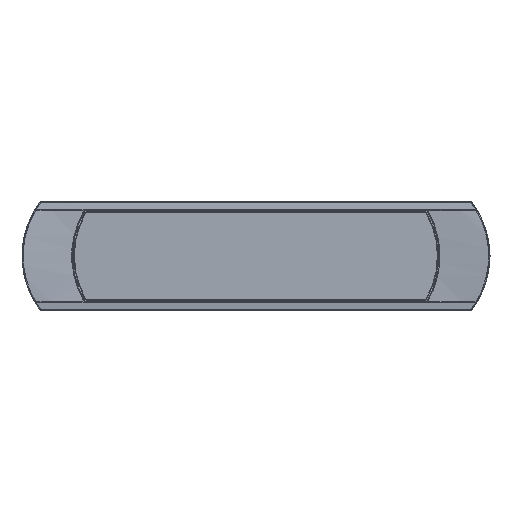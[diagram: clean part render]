
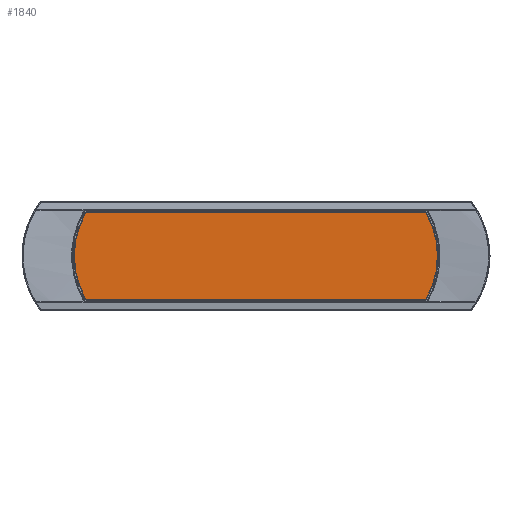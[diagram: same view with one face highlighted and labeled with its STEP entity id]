
A CAD part, top view. The second image highlights one B-rep face of the part: STEP entity #1840.
In plain terms, the highlighted planar face has unit normal (0, 0, 1) as drawn and (0, 1, 0) by its records, which use the part's own axes.
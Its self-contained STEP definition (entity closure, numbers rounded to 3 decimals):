
#97 = DIRECTION ( 'NONE',  ( 1., 0., 0. ) ) ;
#264 = EDGE_CURVE ( 'NONE', #66988, #19617, #21677, .T. ) ;
#1133 = CARTESIAN_POINT ( 'NONE',  ( -66.18, 21.1, -17. ) ) ;
#1840 = ADVANCED_FACE ( 'NONE', ( #38697 ), #14193, .T. ) ;
#2739 = AXIS2_PLACEMENT_3D ( 'NONE', #55006, #15106, #61252 ) ;
#3786 = ORIENTED_EDGE ( 'NONE', *, *, #68823, .T. ) ;
#4520 = CARTESIAN_POINT ( 'NONE',  ( 66.353, 21.1, -16.899 ) ) ;
#5473 = CARTESIAN_POINT ( 'NONE',  ( 66.253, 21.1, 17. ) ) ;
#7059 = CARTESIAN_POINT ( 'NONE',  ( 66.18, 21.1, 17. ) ) ;
#7843 = VERTEX_POINT ( 'NONE', #7059 ) ;
#8142 = DIRECTION ( 'NONE',  ( 0., 1., 0. ) ) ;
#10627 = CARTESIAN_POINT ( 'NONE',  ( 66.253, 21.1, -17. ) ) ;
#10857 = DIRECTION ( 'NONE',  ( 0., 1., 0. ) ) ;
#14193 = PLANE ( 'NONE',  #68060 ) ;
#14652 = AXIS2_PLACEMENT_3D ( 'NONE', #57537, #10857, #51265 ) ;
#15106 = DIRECTION ( 'NONE',  ( 0., 1., 0. ) ) ;
#15636 = EDGE_CURVE ( 'NONE', #19617, #30595, #30942, .T. ) ;
#15665 = CARTESIAN_POINT ( 'NONE',  ( -66.253, 21.1, 17. ) ) ;
#16105 = VERTEX_POINT ( 'NONE', #20111 ) ;
#19434 = DIRECTION ( 'NONE',  ( 0., 0., 1. ) ) ;
#19617 = VERTEX_POINT ( 'NONE', #24072 ) ;
#20111 = CARTESIAN_POINT ( 'NONE',  ( 66.18, 21.1, -17. ) ) ;
#21232 = CARTESIAN_POINT ( 'NONE',  ( -66.18, 21.1, 17. ) ) ;
#21584 = ORIENTED_EDGE ( 'NONE', *, *, #71460, .T. ) ;
#21677 = CIRCLE ( 'NONE', #14652, 34. ) ;
#21943 = EDGE_CURVE ( 'NONE', #48780, #16105, #37046, .T. ) ;
#23609 = EDGE_LOOP ( 'NONE', ( #29586, #71428, #73860, #45229, #47645, #40211, #3786, #21584 ) ) ;
#24072 = CARTESIAN_POINT ( 'NONE',  ( -66.352, 21.1, 16.9 ) ) ;
#24640 = DIRECTION ( 'NONE',  ( -1., 0., 0. ) ) ;
#25160 = CARTESIAN_POINT ( 'NONE',  ( -66.18, 21.1, -17. ) ) ;
#28575 = CARTESIAN_POINT ( 'NONE',  ( 66.316, 21.1, 16.963 ) ) ;
#29419 = CARTESIAN_POINT ( 'NONE',  ( 0., 21.1, 17. ) ) ;
#29586 = ORIENTED_EDGE ( 'NONE', *, *, #33412, .T. ) ;
#30595 = VERTEX_POINT ( 'NONE', #21232 ) ;
#30942 =( BOUNDED_CURVE ( )  B_SPLINE_CURVE ( 3, ( #55816, #32989, #15665, #67857 ),
 .UNSPECIFIED., .F., .F. ) 
 B_SPLINE_CURVE_WITH_KNOTS ( ( 4, 4 ),
 ( 2.62, 3.663 ),
 .UNSPECIFIED. ) 
 CURVE ( )  GEOMETRIC_REPRESENTATION_ITEM ( )  RATIONAL_B_SPLINE_CURVE ( ( 1., 0.911, 0.911, 1. ) ) 
 REPRESENTATION_ITEM ( '' )  );
#31195 = CARTESIAN_POINT ( 'NONE',  ( -66.316, 21.1, -16.963 ) ) ;
#31454 = VECTOR ( 'NONE', #24640, 1000. ) ;
#32989 = CARTESIAN_POINT ( 'NONE',  ( -66.316, 21.1, 16.963 ) ) ;
#33412 = EDGE_CURVE ( 'NONE', #41602, #48780, #67511, .T. ) ;
#34591 = CARTESIAN_POINT ( 'NONE',  ( 66.352, 21.1, 16.9 ) ) ;
#37046 =( BOUNDED_CURVE ( )  B_SPLINE_CURVE ( 3, ( #73648, #72675, #10627, #66883 ),
 .UNSPECIFIED., .F., .F. ) 
 B_SPLINE_CURVE_WITH_KNOTS ( ( 4, 4 ),
 ( 2.616, 3.663 ),
 .UNSPECIFIED. ) 
 CURVE ( )  GEOMETRIC_REPRESENTATION_ITEM ( )  RATIONAL_B_SPLINE_CURVE ( ( 1., 0.911, 0.911, 1. ) ) 
 REPRESENTATION_ITEM ( '' )  );
#38697 = FACE_OUTER_BOUND ( 'NONE', #23609, .T. ) ;
#39170 = LINE ( 'NONE', #29419, #57109 ) ;
#39610 = CARTESIAN_POINT ( 'NONE',  ( 66.18, 21.1, 17. ) ) ;
#40211 = ORIENTED_EDGE ( 'NONE', *, *, #15636, .T. ) ;
#41602 = VERTEX_POINT ( 'NONE', #57659 ) ;
#42254 = CARTESIAN_POINT ( 'NONE',  ( 0., 21.1, 0. ) ) ;
#45229 = ORIENTED_EDGE ( 'NONE', *, *, #50481, .T. ) ;
#46728 = LINE ( 'NONE', #65068, #31454 ) ;
#47645 = ORIENTED_EDGE ( 'NONE', *, *, #264, .T. ) ;
#48780 = VERTEX_POINT ( 'NONE', #4520 ) ;
#49834 = EDGE_CURVE ( 'NONE', #16105, #62390, #46728, .T. ) ;
#50481 = EDGE_CURVE ( 'NONE', #62390, #66988, #55819, .T. ) ;
#51265 = DIRECTION ( 'NONE',  ( 0., 0., 1. ) ) ;
#53789 = CARTESIAN_POINT ( 'NONE',  ( -66.253, 21.1, -17. ) ) ;
#55006 = CARTESIAN_POINT ( 'NONE',  ( 36.85, 21.1, 0. ) ) ;
#55816 = CARTESIAN_POINT ( 'NONE',  ( -66.352, 21.1, 16.9 ) ) ;
#55819 =( BOUNDED_CURVE ( )  B_SPLINE_CURVE ( 3, ( #25160, #53789, #31195, #71103 ),
 .UNSPECIFIED., .F., .F. ) 
 B_SPLINE_CURVE_WITH_KNOTS ( ( 4, 4 ),
 ( 2.62, 3.663 ),
 .UNSPECIFIED. ) 
 CURVE ( )  GEOMETRIC_REPRESENTATION_ITEM ( )  RATIONAL_B_SPLINE_CURVE ( ( 1., 0.911, 0.911, 1. ) ) 
 REPRESENTATION_ITEM ( '' )  );
#57109 = VECTOR ( 'NONE', #97, 1000. ) ;
#57537 = CARTESIAN_POINT ( 'NONE',  ( -36.85, 21.1, 0. ) ) ;
#57659 = CARTESIAN_POINT ( 'NONE',  ( 66.352, 21.1, 16.9 ) ) ;
#61252 = DIRECTION ( 'NONE',  ( 0., 0., 1. ) ) ;
#62390 = VERTEX_POINT ( 'NONE', #1133 ) ;
#65068 = CARTESIAN_POINT ( 'NONE',  ( 0., 21.1, -17. ) ) ;
#66883 = CARTESIAN_POINT ( 'NONE',  ( 66.18, 21.1, -17. ) ) ;
#66988 = VERTEX_POINT ( 'NONE', #74474 ) ;
#67511 = CIRCLE ( 'NONE', #2739, 34. ) ;
#67857 = CARTESIAN_POINT ( 'NONE',  ( -66.18, 21.1, 17. ) ) ;
#68060 = AXIS2_PLACEMENT_3D ( 'NONE', #42254, #8142, #19434 ) ;
#68823 = EDGE_CURVE ( 'NONE', #30595, #7843, #39170, .T. ) ;
#71103 = CARTESIAN_POINT ( 'NONE',  ( -66.352, 21.1, -16.9 ) ) ;
#71428 = ORIENTED_EDGE ( 'NONE', *, *, #21943, .T. ) ;
#71460 = EDGE_CURVE ( 'NONE', #7843, #41602, #72567, .T. ) ;
#72567 =( BOUNDED_CURVE ( )  B_SPLINE_CURVE ( 3, ( #39610, #5473, #28575, #34591 ),
 .UNSPECIFIED., .F., .F. ) 
 B_SPLINE_CURVE_WITH_KNOTS ( ( 4, 4 ),
 ( 2.62, 3.663 ),
 .UNSPECIFIED. ) 
 CURVE ( )  GEOMETRIC_REPRESENTATION_ITEM ( )  RATIONAL_B_SPLINE_CURVE ( ( 1., 0.911, 0.911, 1. ) ) 
 REPRESENTATION_ITEM ( '' )  );
#72675 = CARTESIAN_POINT ( 'NONE',  ( 66.316, 21.1, -16.963 ) ) ;
#73648 = CARTESIAN_POINT ( 'NONE',  ( 66.353, 21.1, -16.899 ) ) ;
#73860 = ORIENTED_EDGE ( 'NONE', *, *, #49834, .T. ) ;
#74474 = CARTESIAN_POINT ( 'NONE',  ( -66.352, 21.1, -16.9 ) ) ;
